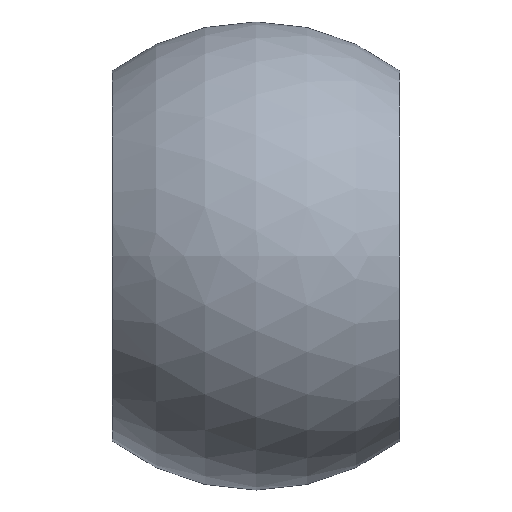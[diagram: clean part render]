
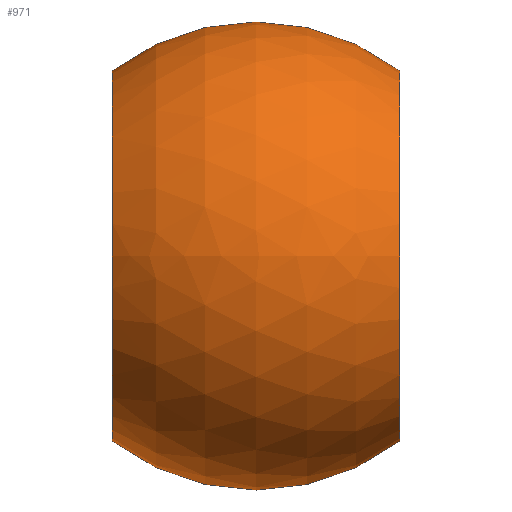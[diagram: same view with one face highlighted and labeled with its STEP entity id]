
A CAD part, left-side view. The second image highlights one B-rep face of the part: STEP entity #971.
In plain terms, the highlighted spherical face has radius 37.5 mm.
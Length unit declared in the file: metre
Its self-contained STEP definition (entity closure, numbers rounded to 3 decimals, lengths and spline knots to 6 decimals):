
#971=ADVANCED_FACE('',(#2166,#2167),#2168,.T.);
#2166=FACE_OUTER_BOUND('',#3731,.T.);
#2167=FACE_OUTER_BOUND('',#3732,.T.);
#2168=SPHERICAL_SURFACE('',#3733,0.0375);
#3731=EDGE_LOOP('',(#5508));
#3732=EDGE_LOOP('',(#5509));
#3733=AXIS2_PLACEMENT_3D('',#5510,#5511,#5512);
#5508=ORIENTED_EDGE('',*,*,#6801,.F.);
#5509=ORIENTED_EDGE('',*,*,#6778,.T.);
#5510=CARTESIAN_POINT('',(-0.021214,0.079831,0.0));
#5511=DIRECTION('',(0.,1.0,0.));
#5512=DIRECTION('',(-1.0,0.,0.0));
#6778=EDGE_CURVE('',#7694,#7694,#7695,.T.);
#6801=EDGE_CURVE('',#7730,#7730,#7731,.T.);
#7694=VERTEX_POINT('',#8757);
#7695=CIRCLE('',#8758,0.029618);
#7730=VERTEX_POINT('',#8793);
#7731=CIRCLE('',#8794,0.029618);
#8757=CARTESIAN_POINT('',(-0.050833,0.056831,0.));
#8758=AXIS2_PLACEMENT_3D('',#9915,#9916,#9917);
#8793=CARTESIAN_POINT('',(-0.050833,0.102831,0.));
#8794=AXIS2_PLACEMENT_3D('',#9954,#9955,#9956);
#9915=CARTESIAN_POINT('',(-0.021214,0.056831,0.));
#9916=DIRECTION('',(0.,1.0,0.));
#9917=DIRECTION('',(-1.0,0.,0.0));
#9954=CARTESIAN_POINT('',(-0.021214,0.102831,0.));
#9955=DIRECTION('',(0.,1.0,0.));
#9956=DIRECTION('',(-1.0,0.,0.0));
